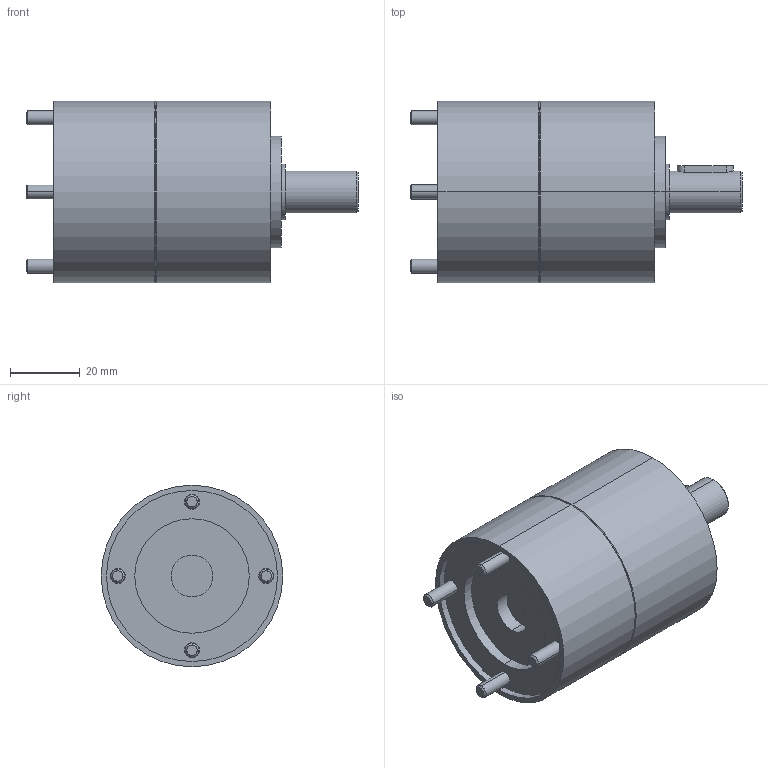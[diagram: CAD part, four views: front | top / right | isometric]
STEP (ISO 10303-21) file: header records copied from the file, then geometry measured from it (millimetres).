
FILE_DESCRIPTION (( 'STEP AP214' ), '1' );
FILE_NAME ('PM50-2stufig.STEP', '2012-09-19T12:48:23', ( ' ' ), ( '' ), 'SwSTEP 2.0', 'SolidWorks 2010', '' );
FILE_SCHEMA (( 'AUTOMOTIVE_DESIGN' ));
Length unit declared in the file: millimetre
Products named in the file (1): PM50-2stufig
Bounding box: 95.1 x 52 x 52 mm (x, y, z)
Volume: 129057 mm3; surface area: 24406.8 mm2
Topology: 5 solids, 5 shells, 162 faces, 342 edges, 209 vertices
Faces by surface type: cylinder 61, plane 60, cone 33, torus 8
Entity records: 5498 total; most frequent: DIRECTION 812, CARTESIAN_POINT 780, ORIENTED_EDGE 666, EDGE_CURVE 333, AXIS2_PLACEMENT_3D 319, VERTEX_POINT 209, EDGE_LOOP 190, VECTOR 174
